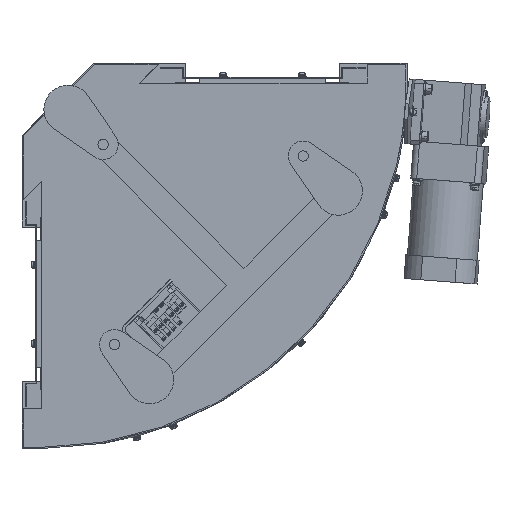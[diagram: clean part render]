
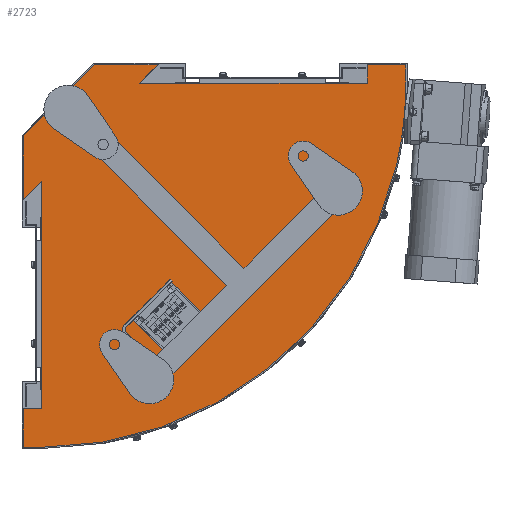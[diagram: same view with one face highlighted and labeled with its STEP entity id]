
A CAD part, front view. The second image highlights one B-rep face of the part: STEP entity #2723.
In plain terms, the highlighted planar face has unit normal (0, -1, 0).
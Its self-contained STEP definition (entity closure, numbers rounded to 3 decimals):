
#2723=ADVANCED_FACE('',(#17148),#17147,.F.);
#17147=PLANE('',#28161);
#17148=FACE_OUTER_BOUND('',#28162,.T.);
#28158=CARTESIAN_POINT('',(-33.4,-145.7,-471.5));
#28159=DIRECTION('',(0.,1.,0.));
#28160=DIRECTION('',(0.,0.,1.));
#28161=AXIS2_PLACEMENT_3D('',#28158,#28159,#28160);
#28162=EDGE_LOOP('',(#37630,#37631,#37632,#37633,#37634,#37635,#37636,#37637,#37638,#37639,#37640,#37641,#37642,#37643,#37644,#37645));
#37630=ORIENTED_EDGE('',*,*,#42138,.F.);
#37631=ORIENTED_EDGE('',*,*,#42139,.T.);
#37632=ORIENTED_EDGE('',*,*,#42140,.T.);
#37633=ORIENTED_EDGE('',*,*,#42141,.T.);
#37634=ORIENTED_EDGE('',*,*,#42142,.T.);
#37635=ORIENTED_EDGE('',*,*,#42143,.T.);
#37636=ORIENTED_EDGE('',*,*,#42144,.T.);
#37637=ORIENTED_EDGE('',*,*,#42145,.T.);
#37638=ORIENTED_EDGE('',*,*,#42146,.T.);
#37639=ORIENTED_EDGE('',*,*,#42147,.T.);
#37640=ORIENTED_EDGE('',*,*,#42148,.F.);
#37641=ORIENTED_EDGE('',*,*,#42149,.T.);
#37642=ORIENTED_EDGE('',*,*,#42150,.T.);
#37643=ORIENTED_EDGE('',*,*,#42151,.T.);
#37644=ORIENTED_EDGE('',*,*,#42152,.T.);
#37645=ORIENTED_EDGE('',*,*,#42153,.T.);
#42138=EDGE_CURVE('',#66011,#66012,#66013,.T.);
#42139=EDGE_CURVE('',#66011,#66019,#66020,.T.);
#42140=EDGE_CURVE('',#66019,#66026,#66027,.T.);
#42141=EDGE_CURVE('',#66026,#66033,#66034,.T.);
#42142=EDGE_CURVE('',#66033,#66040,#66041,.T.);
#42143=EDGE_CURVE('',#66040,#66047,#66048,.T.);
#42144=EDGE_CURVE('',#66047,#66054,#66055,.T.);
#42145=EDGE_CURVE('',#66054,#66061,#66062,.T.);
#42146=EDGE_CURVE('',#66061,#66068,#66069,.T.);
#42147=EDGE_CURVE('',#66068,#66075,#66076,.T.);
#42148=EDGE_CURVE('',#66082,#66075,#66083,.T.);
#42149=EDGE_CURVE('',#66082,#66089,#66090,.T.);
#42150=EDGE_CURVE('',#66089,#66096,#66097,.T.);
#42151=EDGE_CURVE('',#66096,#66103,#66104,.T.);
#42152=EDGE_CURVE('',#66103,#66110,#66111,.T.);
#42153=EDGE_CURVE('',#66110,#66012,#66117,.T.);
#66011=VERTEX_POINT('',#83781);
#66012=VERTEX_POINT('',#83782);
#66013=LINE('',#83783,#83784);
#66019=VERTEX_POINT('',#83786);
#66020=LINE('',#83787,#83788);
#66026=VERTEX_POINT('',#83790);
#66027=LINE('',#83791,#83792);
#66033=VERTEX_POINT('',#83794);
#66034=LINE('',#83795,#83796);
#66040=VERTEX_POINT('',#83798);
#66041=CIRCLE('',#83802,461.5);
#66047=VERTEX_POINT('',#83803);
#66048=CIRCLE('',#83807,461.5);
#66054=VERTEX_POINT('',#83808);
#66055=LINE('',#83809,#83810);
#66061=VERTEX_POINT('',#83812);
#66062=LINE('',#83813,#83814);
#66068=VERTEX_POINT('',#83816);
#66069=LINE('',#83817,#83818);
#66075=VERTEX_POINT('',#83820);
#66076=LINE('',#83821,#83822);
#66082=VERTEX_POINT('',#83824);
#66083=LINE('',#83825,#83826);
#66089=VERTEX_POINT('',#83828);
#66090=LINE('',#83829,#83830);
#66096=VERTEX_POINT('',#83832);
#66097=LINE('',#83833,#83834);
#66103=VERTEX_POINT('',#83836);
#66104=LINE('',#83837,#83838);
#66110=VERTEX_POINT('',#83840);
#66111=LINE('',#83841,#83842);
#66117=LINE('',#83844,#83845);
#83781=CARTESIAN_POINT('',(0.,-145.7,-412.5));
#83782=CARTESIAN_POINT('',(0.,-145.7,-124.1));
#83783=CARTESIAN_POINT('',(0.,-145.7,-412.5));
#83784=VECTOR('',#83785,288.4);
#83785=DIRECTION('',(0.,0.,1.));
#83786=CARTESIAN_POINT('',(-23.4,-145.7,-412.5));
#83787=CARTESIAN_POINT('',(0.,-145.7,-412.5));
#83788=VECTOR('',#83789,23.4);
#83789=DIRECTION('',(-1.,0.,0.));
#83790=CARTESIAN_POINT('',(-23.4,-145.7,-461.5));
#83791=CARTESIAN_POINT('',(-23.4,-145.7,-412.5));
#83792=VECTOR('',#83793,49.);
#83793=DIRECTION('',(0.,0.,-1.));
#83794=CARTESIAN_POINT('',(0.,-145.7,-461.5));
#83795=CARTESIAN_POINT('',(-23.4,-145.7,-461.5));
#83796=VECTOR('',#83797,23.4);
#83797=DIRECTION('',(1.,0.,0.));
#83798=CARTESIAN_POINT('',(449.236,-145.7,-105.684));
#83799=CARTESIAN_POINT('',(0.,-145.7,0.));
#83800=DIRECTION('',(0.,-1.,0.));
#83801=DIRECTION('',(0.,0.,-1.));
#83802=AXIS2_PLACEMENT_3D('',#83799,#83800,#83801);
#83803=CARTESIAN_POINT('',(461.5,-145.7,0.));
#83804=CARTESIAN_POINT('',(0.,-145.7,0.));
#83805=DIRECTION('',(0.,-1.,0.));
#83806=DIRECTION('',(0.,0.,-1.));
#83807=AXIS2_PLACEMENT_3D('',#83804,#83805,#83806);
#83808=CARTESIAN_POINT('',(461.5,-145.7,7.));
#83809=CARTESIAN_POINT('',(461.5,-145.7,0.));
#83810=VECTOR('',#83811,7.);
#83811=DIRECTION('',(0.,0.,1.));
#83812=CARTESIAN_POINT('',(461.5,-145.7,23.4));
#83813=CARTESIAN_POINT('',(461.5,-145.7,7.));
#83814=VECTOR('',#83815,16.4);
#83815=DIRECTION('',(0.,0.,1.));
#83816=CARTESIAN_POINT('',(412.5,-145.7,23.4));
#83817=CARTESIAN_POINT('',(461.5,-145.7,23.4));
#83818=VECTOR('',#83819,49.);
#83819=DIRECTION('',(-1.,0.,0.));
#83820=CARTESIAN_POINT('',(412.5,-145.7,0.));
#83821=CARTESIAN_POINT('',(412.5,-145.7,23.4));
#83822=VECTOR('',#83823,23.4);
#83823=DIRECTION('',(0.,0.,-1.));
#83824=CARTESIAN_POINT('',(124.1,-145.7,0.));
#83825=CARTESIAN_POINT('',(124.1,-145.7,0.));
#83826=VECTOR('',#83827,288.4);
#83827=DIRECTION('',(1.,0.,0.));
#83828=CARTESIAN_POINT('',(147.5,-145.7,23.4));
#83829=CARTESIAN_POINT('',(124.1,-145.7,0.));
#83830=VECTOR('',#83831,33.093);
#83831=DIRECTION('',(0.707,0.,0.707));
#83832=CARTESIAN_POINT('',(66.663,-145.7,23.4));
#83833=CARTESIAN_POINT('',(147.5,-145.7,23.4));
#83834=VECTOR('',#83835,80.837);
#83835=DIRECTION('',(-1.,0.,0.));
#83836=CARTESIAN_POINT('',(-23.4,-145.7,-66.663));
#83837=CARTESIAN_POINT('',(66.663,-145.7,23.4));
#83838=VECTOR('',#83839,127.368);
#83839=DIRECTION('',(-0.707,0.,-0.707));
#83840=CARTESIAN_POINT('',(-23.4,-145.7,-147.5));
#83841=CARTESIAN_POINT('',(-23.4,-145.7,-66.663));
#83842=VECTOR('',#83843,80.837);
#83843=DIRECTION('',(0.,0.,-1.));
#83844=CARTESIAN_POINT('',(-23.4,-145.7,-147.5));
#83845=VECTOR('',#83846,33.093);
#83846=DIRECTION('',(0.707,0.,0.707));
